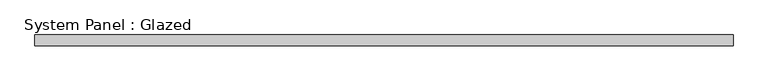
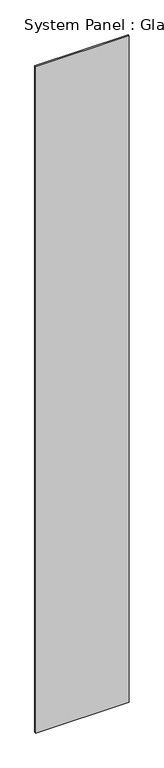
"""IFC4 building model written with IfcOpenShell, lengths in millimetres: plate geometry, System Panel : Glazed."""

from ifc_helpers import new_model, si_unit, origin, origin_with_axes, place, context, project, spatial, polyline, outline, extrude, source, transform, mapped, element, save


def system_panel_glazed_eeb16b76(model_context):
    return source(origin(), model_context, "Body", "SweptSolid", [
        extrude(outline(polyline([(797.3502029, -12.5), (-797.3502029, -12.5), (-797.3502029, 12.5), (797.3502029, 12.5), (797.3502029, -12.5)])), origin_with_axes(), (0.0, 0.0, 1.0), 12000.0),
    ])


if __name__ == "__main__":
    model = new_model("IFC4")
    model_context = context("Model", 3, world=origin())
    ifc_project = project(units=[si_unit("LENGTHUNIT", "METRE", prefix="MILLI")], contexts=[model_context])
    site = spatial("IfcSite", under=ifc_project)
    building = spatial("IfcBuilding", under=site)
    placement = place(None, origin())
    system_panel_glazed_shape = system_panel_glazed_eeb16b76(model_context)
    element("IfcPlate", 1, ObjectType="System Panel : Glazed", at=placement, inside=building, context=model_context, shape_type="MappedRepresentation", body=[
        mapped(system_panel_glazed_shape, transform((0.0, 0.0, 0.0), x_axis=(1.0, 0.0, 0.0), y_axis=(0.0, 1.0, 0.0), z_axis=(0.0, 0.0, 1.0))),
    ])
    save(model, "model.ifc")
